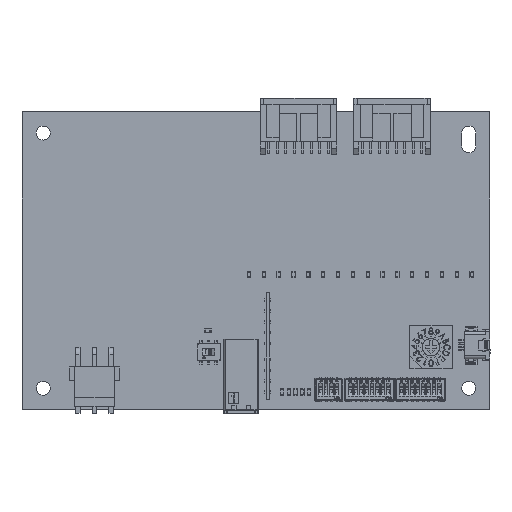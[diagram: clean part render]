
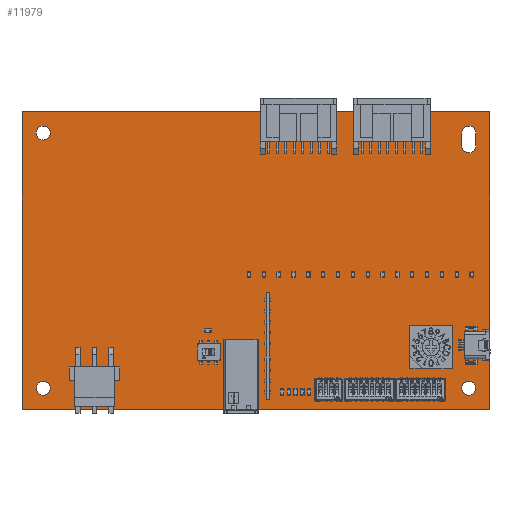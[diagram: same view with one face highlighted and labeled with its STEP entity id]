
A CAD part, top view. The second image highlights one B-rep face of the part: STEP entity #11979.
In plain terms, the highlighted planar face has unit normal (0, 0, 1).
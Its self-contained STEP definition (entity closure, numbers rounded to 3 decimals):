
#992 = EDGE_LOOP ( 'NONE', ( #7620, #3264 ) ) ;
#1008 = CARTESIAN_POINT ( 'NONE',  ( 106.65, 65., 0. ) ) ;
#3264 = ORIENTED_EDGE ( 'NONE', *, *, #5690, .F. ) ;
#4409 = CIRCLE ( 'NONE', #78840, 1.65 ) ;
#4885 = CARTESIAN_POINT ( 'NONE',  ( 106.65, 65., 0. ) ) ;
#5666 = CIRCLE ( 'NONE', #43568, 1.65 ) ;
#5690 = EDGE_CURVE ( 'NONE', #12909, #16046, #74013, .T. ) ;
#6517 = DIRECTION ( 'NONE',  ( 1., 0., 0. ) ) ;
#7620 = ORIENTED_EDGE ( 'NONE', *, *, #52035, .F. ) ;
#7732 = ORIENTED_EDGE ( 'NONE', *, *, #66049, .F. ) ;
#8740 = EDGE_LOOP ( 'NONE', ( #75656, #48669 ) ) ;
#9822 = ORIENTED_EDGE ( 'NONE', *, *, #80235, .F. ) ;
#9879 = VERTEX_POINT ( 'NONE', #25296 ) ;
#10326 = FACE_BOUND ( 'NONE', #992, .T. ) ;
#10433 = AXIS2_PLACEMENT_3D ( 'NONE', #62440, #62860, #81541 ) ;
#10745 = EDGE_CURVE ( 'NONE', #58941, #79841, #5666, .T. ) ;
#10830 = CARTESIAN_POINT ( 'NONE',  ( 110., 0., 0. ) ) ;
#11843 = CARTESIAN_POINT ( 'NONE',  ( 106.65, 62., 0. ) ) ;
#11979 = ADVANCED_FACE ( 'NONE', ( #43331, #68379, #56069, #10326, #25108 ), #36152, .F. ) ;
#12705 = DIRECTION ( 'NONE',  ( 1., 0., 0. ) ) ;
#12909 = VERTEX_POINT ( 'NONE', #36681 ) ;
#13467 = DIRECTION ( 'NONE',  ( 0., 0., 1. ) ) ;
#13710 = CARTESIAN_POINT ( 'NONE',  ( 5., 5., 0. ) ) ;
#14991 = VECTOR ( 'NONE', #62527, 1000. ) ;
#15018 = LINE ( 'NONE', #82800, #80737 ) ;
#15900 = DIRECTION ( 'NONE',  ( 1., 0., 0. ) ) ;
#15987 = VERTEX_POINT ( 'NONE', #42472 ) ;
#16046 = VERTEX_POINT ( 'NONE', #56865 ) ;
#16314 = EDGE_CURVE ( 'NONE', #56060, #33768, #21296, .T. ) ;
#17288 = VERTEX_POINT ( 'NONE', #72379 ) ;
#19208 = EDGE_LOOP ( 'NONE', ( #29736, #35113, #31723, #49743 ) ) ;
#19407 = AXIS2_PLACEMENT_3D ( 'NONE', #13710, #77736, #6517 ) ;
#21296 = CIRCLE ( 'NONE', #60564, 1.65 ) ;
#21652 = EDGE_CURVE ( 'NONE', #17288, #76958, #36666, .T. ) ;
#23385 = AXIS2_PLACEMENT_3D ( 'NONE', #37674, #82218, #75838 ) ;
#24727 = DIRECTION ( 'NONE',  ( -1., 0., 0. ) ) ;
#25108 = FACE_OUTER_BOUND ( 'NONE', #19208, .T. ) ;
#25296 = CARTESIAN_POINT ( 'NONE',  ( 0., 70., 0. ) ) ;
#26820 = EDGE_CURVE ( 'NONE', #61453, #56060, #45900, .T. ) ;
#26823 = EDGE_CURVE ( 'NONE', #80061, #75469, #39657, .T. ) ;
#28194 = LINE ( 'NONE', #28610, #80076 ) ;
#28610 = CARTESIAN_POINT ( 'NONE',  ( 0., 0., 0. ) ) ;
#29668 = DIRECTION ( 'NONE',  ( 0., 0., 1. ) ) ;
#29697 = VERTEX_POINT ( 'NONE', #79744 ) ;
#29736 = ORIENTED_EDGE ( 'NONE', *, *, #67682, .T. ) ;
#31723 = ORIENTED_EDGE ( 'NONE', *, *, #21652, .T. ) ;
#32456 = DIRECTION ( 'NONE',  ( 0., 0., 1. ) ) ;
#33768 = VERTEX_POINT ( 'NONE', #52684 ) ;
#34431 = CARTESIAN_POINT ( 'NONE',  ( 6.65, 65., 0. ) ) ;
#35113 = ORIENTED_EDGE ( 'NONE', *, *, #38398, .T. ) ;
#35599 = ORIENTED_EDGE ( 'NONE', *, *, #26820, .F. ) ;
#36152 = PLANE ( 'NONE',  #42903 ) ;
#36428 = CARTESIAN_POINT ( 'NONE',  ( 105., 65., 0. ) ) ;
#36564 = DIRECTION ( 'NONE',  ( -1., 0., 0. ) ) ;
#36593 = CARTESIAN_POINT ( 'NONE',  ( 0., 70., 0. ) ) ;
#36666 = LINE ( 'NONE', #10830, #14991 ) ;
#36681 = CARTESIAN_POINT ( 'NONE',  ( 103.35, 5., 0. ) ) ;
#36983 = DIRECTION ( 'NONE',  ( 0., 0., -1. ) ) ;
#37406 = CARTESIAN_POINT ( 'NONE',  ( 0., 0., 0. ) ) ;
#37674 = CARTESIAN_POINT ( 'NONE',  ( 5., 65., 0. ) ) ;
#38398 = EDGE_CURVE ( 'NONE', #15987, #17288, #28194, .T. ) ;
#39025 = CARTESIAN_POINT ( 'NONE',  ( 3.35, 5., 0. ) ) ;
#39657 = CIRCLE ( 'NONE', #19407, 1.65 ) ;
#40926 = ORIENTED_EDGE ( 'NONE', *, *, #16314, .F. ) ;
#42472 = CARTESIAN_POINT ( 'NONE',  ( 0., 0., 0. ) ) ;
#42857 = VECTOR ( 'NONE', #24727, 1000. ) ;
#42865 = EDGE_CURVE ( 'NONE', #76958, #9879, #55678, .T. ) ;
#42903 = AXIS2_PLACEMENT_3D ( 'NONE', #37406, #36983, #36564 ) ;
#43331 = FACE_BOUND ( 'NONE', #82482, .T. ) ;
#43568 = AXIS2_PLACEMENT_3D ( 'NONE', #51671, #57621, #12705 ) ;
#45099 = VECTOR ( 'NONE', #70942, 1000. ) ;
#45616 = CARTESIAN_POINT ( 'NONE',  ( 105., 62., 0. ) ) ;
#45900 = LINE ( 'NONE', #1008, #45099 ) ;
#47377 = CARTESIAN_POINT ( 'NONE',  ( 3.35, 65., 0. ) ) ;
#48582 = CARTESIAN_POINT ( 'NONE',  ( 110., 70., 0. ) ) ;
#48669 = ORIENTED_EDGE ( 'NONE', *, *, #26823, .F. ) ;
#49132 = AXIS2_PLACEMENT_3D ( 'NONE', #71531, #13467, #65166 ) ;
#49407 = EDGE_CURVE ( 'NONE', #75469, #80061, #78948, .T. ) ;
#49500 = DIRECTION ( 'NONE',  ( 0., -1., 0. ) ) ;
#49743 = ORIENTED_EDGE ( 'NONE', *, *, #42865, .T. ) ;
#50758 = LINE ( 'NONE', #76626, #57477 ) ;
#51671 = CARTESIAN_POINT ( 'NONE',  ( 5., 65., 0. ) ) ;
#52035 = EDGE_CURVE ( 'NONE', #16046, #12909, #81896, .T. ) ;
#52684 = CARTESIAN_POINT ( 'NONE',  ( 103.35, 65., 0. ) ) ;
#53448 = AXIS2_PLACEMENT_3D ( 'NONE', #77835, #32456, #58309 ) ;
#55678 = LINE ( 'NONE', #36593, #42857 ) ;
#56060 = VERTEX_POINT ( 'NONE', #4885 ) ;
#56069 = FACE_BOUND ( 'NONE', #8740, .T. ) ;
#56511 = DIRECTION ( 'NONE',  ( 0., -1., 0. ) ) ;
#56865 = CARTESIAN_POINT ( 'NONE',  ( 106.65, 5., 0. ) ) ;
#57477 = VECTOR ( 'NONE', #49500, 1000. ) ;
#57621 = DIRECTION ( 'NONE',  ( 0., 0., 1. ) ) ;
#58309 = DIRECTION ( 'NONE',  ( 1., 0., 0. ) ) ;
#58941 = VERTEX_POINT ( 'NONE', #47377 ) ;
#60564 = AXIS2_PLACEMENT_3D ( 'NONE', #36428, #29668, #67827 ) ;
#61453 = VERTEX_POINT ( 'NONE', #11843 ) ;
#62203 = CARTESIAN_POINT ( 'NONE',  ( 6.65, 5., 0. ) ) ;
#62440 = CARTESIAN_POINT ( 'NONE',  ( 105., 5., 0. ) ) ;
#62527 = DIRECTION ( 'NONE',  ( 0., 1., 0. ) ) ;
#62860 = DIRECTION ( 'NONE',  ( 0., 0., 1. ) ) ;
#65166 = DIRECTION ( 'NONE',  ( 1., 0., 0. ) ) ;
#66049 = EDGE_CURVE ( 'NONE', #33768, #29697, #50758, .T. ) ;
#67682 = EDGE_CURVE ( 'NONE', #9879, #15987, #15018, .T. ) ;
#67827 = DIRECTION ( 'NONE',  ( 1., 0., 0. ) ) ;
#68379 = FACE_BOUND ( 'NONE', #82964, .T. ) ;
#69790 = ORIENTED_EDGE ( 'NONE', *, *, #10745, .F. ) ;
#70942 = DIRECTION ( 'NONE',  ( 0., 1., 0. ) ) ;
#71531 = CARTESIAN_POINT ( 'NONE',  ( 5., 5., 0. ) ) ;
#71905 = DIRECTION ( 'NONE',  ( 0., 0., 1. ) ) ;
#72111 = CIRCLE ( 'NONE', #23385, 1.65 ) ;
#72328 = DIRECTION ( 'NONE',  ( 1., 0., 0. ) ) ;
#72379 = CARTESIAN_POINT ( 'NONE',  ( 110., 0., 0. ) ) ;
#74013 = CIRCLE ( 'NONE', #10433, 1.65 ) ;
#75469 = VERTEX_POINT ( 'NONE', #62203 ) ;
#75656 = ORIENTED_EDGE ( 'NONE', *, *, #49407, .F. ) ;
#75838 = DIRECTION ( 'NONE',  ( 1., 0., 0. ) ) ;
#76626 = CARTESIAN_POINT ( 'NONE',  ( 103.35, 65., 0. ) ) ;
#76958 = VERTEX_POINT ( 'NONE', #48582 ) ;
#77736 = DIRECTION ( 'NONE',  ( 0., 0., 1. ) ) ;
#77835 = CARTESIAN_POINT ( 'NONE',  ( 105., 5., 0. ) ) ;
#77906 = ORIENTED_EDGE ( 'NONE', *, *, #81840, .F. ) ;
#78840 = AXIS2_PLACEMENT_3D ( 'NONE', #45616, #71905, #72328 ) ;
#78948 = CIRCLE ( 'NONE', #49132, 1.65 ) ;
#79744 = CARTESIAN_POINT ( 'NONE',  ( 103.35, 62., 0. ) ) ;
#79841 = VERTEX_POINT ( 'NONE', #34431 ) ;
#80061 = VERTEX_POINT ( 'NONE', #39025 ) ;
#80076 = VECTOR ( 'NONE', #15900, 1000. ) ;
#80235 = EDGE_CURVE ( 'NONE', #79841, #58941, #72111, .T. ) ;
#80737 = VECTOR ( 'NONE', #56511, 1000. ) ;
#81541 = DIRECTION ( 'NONE',  ( 1., 0., 0. ) ) ;
#81840 = EDGE_CURVE ( 'NONE', #29697, #61453, #4409, .T. ) ;
#81896 = CIRCLE ( 'NONE', #53448, 1.65 ) ;
#82218 = DIRECTION ( 'NONE',  ( 0., 0., 1. ) ) ;
#82482 = EDGE_LOOP ( 'NONE', ( #7732, #40926, #35599, #77906 ) ) ;
#82800 = CARTESIAN_POINT ( 'NONE',  ( 0., 0., 0. ) ) ;
#82964 = EDGE_LOOP ( 'NONE', ( #9822, #69790 ) ) ;
